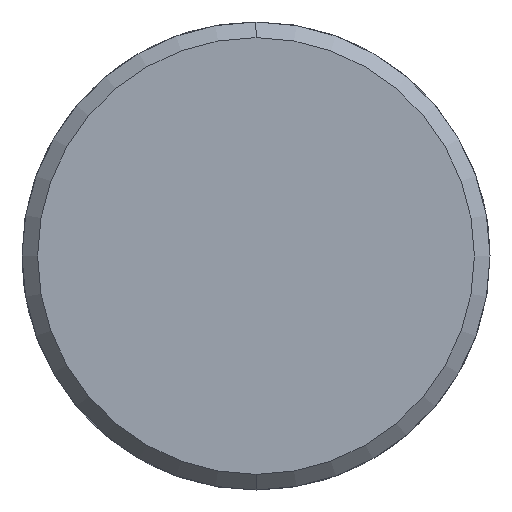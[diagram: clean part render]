
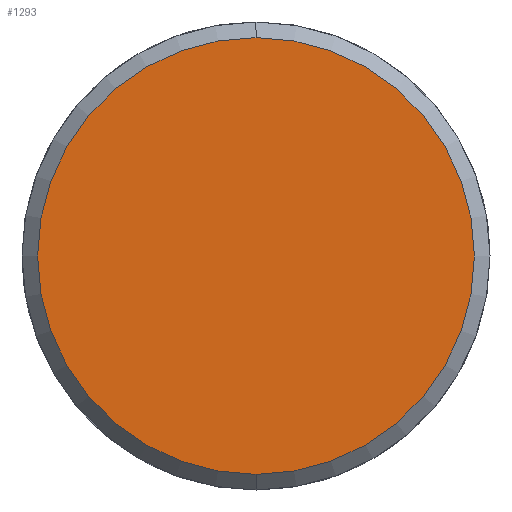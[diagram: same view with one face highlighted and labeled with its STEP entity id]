
A CAD part, left-side view. The second image highlights one B-rep face of the part: STEP entity #1293.
In plain terms, the highlighted planar face has unit normal (-1, 0, 0).
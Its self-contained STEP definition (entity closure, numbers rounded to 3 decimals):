
#1225=CARTESIAN_POINT('Vertex',(-5.,0.,-14.)) ;
#1228=CARTESIAN_POINT('Axis2P3D Location',(-5.,0.,0.)) ;
#1232=CARTESIAN_POINT('Vertex',(-5.,14.,0.)) ;
#1235=CARTESIAN_POINT('Axis2P3D Location',(-5.,0.,0.)) ;
#1239=CARTESIAN_POINT('Vertex',(-5.,0.,14.)) ;
#1261=CARTESIAN_POINT('Axis2P3D Location',(-5.,0.,0.)) ;
#1265=CARTESIAN_POINT('Vertex',(-5.,-14.,0.)) ;
#1268=CARTESIAN_POINT('Axis2P3D Location',(-5.,0.,0.)) ;
#1282=CARTESIAN_POINT('Axis2P3D Location',(-5.,0.,0.)) ;
#1229=DIRECTION('Axis2P3D Direction',(1.,0.,-0.)) ;
#1236=DIRECTION('Axis2P3D Direction',(1.,0.,-0.)) ;
#1262=DIRECTION('Axis2P3D Direction',(1.,0.,-0.)) ;
#1269=DIRECTION('Axis2P3D Direction',(1.,0.,-0.)) ;
#1283=DIRECTION('Axis2P3D Direction',(1.,0.,-0.)) ;
#1284=DIRECTION('Axis2P3D XDirection',(-0.,0.,-1.)) ;
#1230=AXIS2_PLACEMENT_3D('Circle Axis2P3D',#1228,#1229,$) ;
#1237=AXIS2_PLACEMENT_3D('Circle Axis2P3D',#1235,#1236,$) ;
#1263=AXIS2_PLACEMENT_3D('Circle Axis2P3D',#1261,#1262,$) ;
#1270=AXIS2_PLACEMENT_3D('Circle Axis2P3D',#1268,#1269,$) ;
#1285=AXIS2_PLACEMENT_3D('Plane Axis2P3D',#1282,#1283,#1284) ;
#1288=ORIENTED_EDGE('',*,*,#1234,.F.) ;
#1289=ORIENTED_EDGE('',*,*,#1272,.F.) ;
#1290=ORIENTED_EDGE('',*,*,#1267,.F.) ;
#1291=ORIENTED_EDGE('',*,*,#1241,.F.) ;
#1293=ADVANCED_FACE('351-18X76X140',(#1292),#1286,.F.) ;
#1231=CIRCLE('generated circle',#1230,14.) ;
#1238=CIRCLE('generated circle',#1237,14.) ;
#1264=CIRCLE('generated circle',#1263,14.) ;
#1271=CIRCLE('generated circle',#1270,14.) ;
#1234=EDGE_CURVE('',#1226,#1233,#1231,.T.) ;
#1241=EDGE_CURVE('',#1233,#1240,#1238,.T.) ;
#1267=EDGE_CURVE('',#1240,#1266,#1264,.T.) ;
#1272=EDGE_CURVE('',#1266,#1226,#1271,.T.) ;
#1287=EDGE_LOOP('',(#1288,#1289,#1290,#1291)) ;
#1292=FACE_OUTER_BOUND('',#1287,.T.) ;
#1286=PLANE('Plane',#1285) ;
#1226=VERTEX_POINT('',#1225) ;
#1233=VERTEX_POINT('',#1232) ;
#1240=VERTEX_POINT('',#1239) ;
#1266=VERTEX_POINT('',#1265) ;
